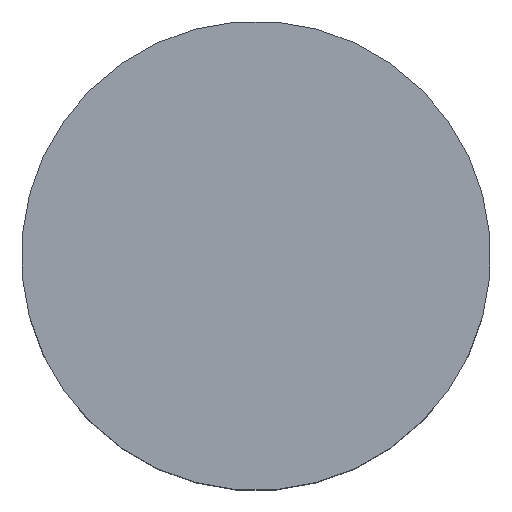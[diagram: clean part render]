
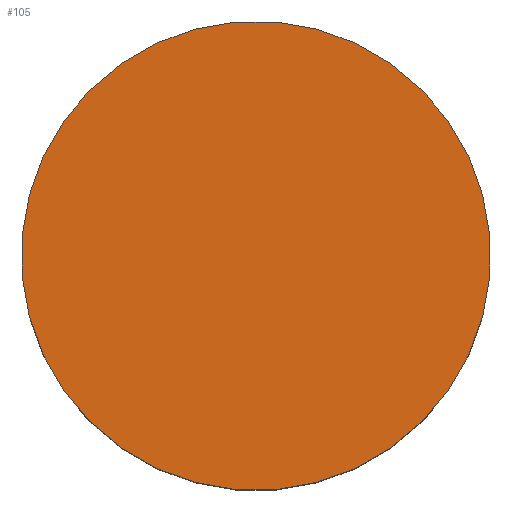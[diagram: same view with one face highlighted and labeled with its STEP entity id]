
A CAD part, top view. The second image highlights one B-rep face of the part: STEP entity #105.
In plain terms, the highlighted planar face has unit normal (0, 0, 1).
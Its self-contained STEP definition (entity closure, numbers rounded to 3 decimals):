
#21 = EDGE_CURVE('',#22,#22,#24,.T.);
#22 = VERTEX_POINT('',#23);
#23 = CARTESIAN_POINT('',(-6.152,-6.152,12.4));
#24 = SURFACE_CURVE('',#25,(#30,#42),.PCURVE_S1.);
#25 = CIRCLE('',#26,1.5);
#26 = AXIS2_PLACEMENT_3D('',#27,#28,#29);
#27 = CARTESIAN_POINT('',(-5.091,-5.091,12.4));
#28 = DIRECTION('',(0.,0.,1.));
#29 = DIRECTION('',(-0.707,-0.707,0.));
#30 = PCURVE('',#31,#36);
#31 = CYLINDRICAL_SURFACE('',#32,1.5);
#32 = AXIS2_PLACEMENT_3D('',#33,#34,#35);
#33 = CARTESIAN_POINT('',(-5.091,-5.091,10.8));
#34 = DIRECTION('',(0.,0.,1.));
#35 = DIRECTION('',(-0.707,-0.707,0.));
#36 = DEFINITIONAL_REPRESENTATION('',(#37),#41);
#37 = LINE('',#38,#39);
#38 = CARTESIAN_POINT('',(0.,1.6));
#39 = VECTOR('',#40,1.);
#40 = DIRECTION('',(1.,0.));
#41 = ( GEOMETRIC_REPRESENTATION_CONTEXT(2) 
PARAMETRIC_REPRESENTATION_CONTEXT() REPRESENTATION_CONTEXT('2D SPACE',''
  ) );
#42 = PCURVE('',#43,#48);
#43 = PLANE('',#44);
#44 = AXIS2_PLACEMENT_3D('',#45,#46,#47);
#45 = CARTESIAN_POINT('',(-5.091,-5.091,12.4));
#46 = DIRECTION('',(0.,0.,1.));
#47 = DIRECTION('',(-0.707,-0.707,0.));
#48 = DEFINITIONAL_REPRESENTATION('',(#49),#53);
#49 = CIRCLE('',#50,1.5);
#50 = AXIS2_PLACEMENT_2D('',#51,#52);
#51 = CARTESIAN_POINT('',(0.,0.));
#52 = DIRECTION('',(1.,0.));
#53 = ( GEOMETRIC_REPRESENTATION_CONTEXT(2) 
PARAMETRIC_REPRESENTATION_CONTEXT() REPRESENTATION_CONTEXT('2D SPACE',''
  ) );
#105 = ADVANCED_FACE('',(#106),#43,.T.);
#106 = FACE_BOUND('',#107,.T.);
#107 = EDGE_LOOP('',(#108));
#108 = ORIENTED_EDGE('',*,*,#21,.T.);
